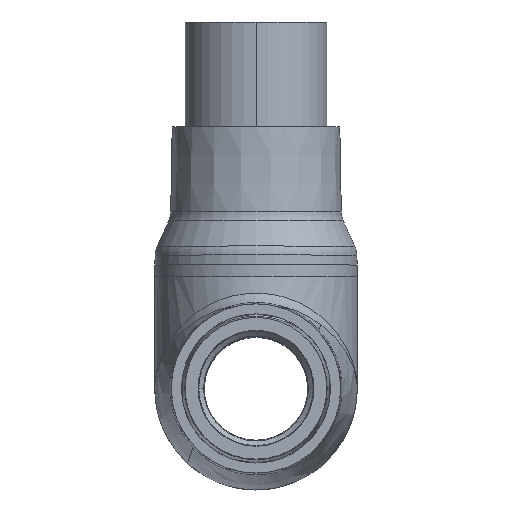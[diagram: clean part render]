
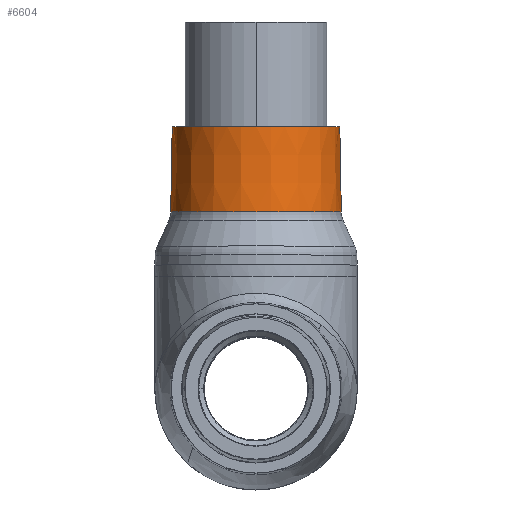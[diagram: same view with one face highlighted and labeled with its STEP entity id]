
A CAD part, top view. The second image highlights one B-rep face of the part: STEP entity #6604.
In plain terms, the highlighted conical face has half-angle 1 degrees and reference radius 37.25 mm.
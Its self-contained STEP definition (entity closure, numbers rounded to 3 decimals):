
#2695 = CARTESIAN_POINT ( 'NONE',  ( -0.314, 68.449, 7.056 ) ) ;
#2696 = DIRECTION ( 'NONE',  ( 0., 1., 0. ) ) ;
#2697 = DIRECTION ( 'NONE',  ( 1., 0., 0. ) ) ;
#4504 = DIRECTION ( 'NONE',  ( 1., 0., 0. ) ) ;
#4509 = FACE_OUTER_BOUND ( 'NONE', #7420, .T. ) ;
#4511 = DIRECTION ( 'NONE',  ( 0., -1., 0. ) ) ;
#4515 = CARTESIAN_POINT ( 'NONE',  ( -0.314, 106.357, 7.056 ) ) ;
#6604 = ADVANCED_FACE ( 'NONE', ( #4509 ), #8355, .T. ) ;
#6712 = CIRCLE ( 'NONE', #6722, 37.25 ) ;
#6720 = VECTOR ( 'NONE', #9482, 1000. ) ;
#6722 = AXIS2_PLACEMENT_3D ( 'NONE', #9479, #9480, #9481 ) ;
#6723 = VECTOR ( 'NONE', #9486, 1000. ) ;
#6868 = CIRCLE ( 'NONE', #6873, 37.912 ) ;
#6873 = AXIS2_PLACEMENT_3D ( 'NONE', #2695, #2696, #2697 ) ;
#7224 = EDGE_CURVE ( 'NONE', #7879, #7871, #6868, .T. ) ;
#7251 = EDGE_CURVE ( 'NONE', #7884, #7855, #6712, .T. ) ;
#7252 = EDGE_CURVE ( 'NONE', #7884, #7879, #9478, .T. ) ;
#7253 = EDGE_CURVE ( 'NONE', #7855, #7871, #9483, .T. ) ;
#7420 = EDGE_LOOP ( 'NONE', ( #7518, #7519, #7520, #7521 ) ) ;
#7518 = ORIENTED_EDGE ( 'NONE', *, *, #7251, .F. ) ;
#7519 = ORIENTED_EDGE ( 'NONE', *, *, #7252, .T. ) ;
#7520 = ORIENTED_EDGE ( 'NONE', *, *, #7224, .T. ) ;
#7521 = ORIENTED_EDGE ( 'NONE', *, *, #7253, .F. ) ;
#7855 = VERTEX_POINT ( 'NONE', #9595 ) ;
#7871 = VERTEX_POINT ( 'NONE', #9611 ) ;
#7879 = VERTEX_POINT ( 'NONE', #9619 ) ;
#7884 = VERTEX_POINT ( 'NONE', #9624 ) ;
#8355 = CONICAL_SURFACE ( 'NONE', #8356, 37.25, 0.017 ) ;
#8356 = AXIS2_PLACEMENT_3D ( 'NONE', #4515, #4511, #4504 ) ;
#9474 = CARTESIAN_POINT ( 'NONE',  ( -37.564, 106.357, 7.056 ) ) ;
#9478 = LINE ( 'NONE', #9474, #6720 ) ;
#9479 = CARTESIAN_POINT ( 'NONE',  ( -0.314, 106.357, 7.056 ) ) ;
#9480 = DIRECTION ( 'NONE',  ( 0., 1., 0. ) ) ;
#9481 = DIRECTION ( 'NONE',  ( 1., 0., 0. ) ) ;
#9482 = DIRECTION ( 'NONE',  ( -0.017, -1., 0. ) ) ;
#9483 = LINE ( 'NONE', #9485, #6723 ) ;
#9485 = CARTESIAN_POINT ( 'NONE',  ( 36.936, 106.357, 7.056 ) ) ;
#9486 = DIRECTION ( 'NONE',  ( 0.017, -1., 0. ) ) ;
#9595 = CARTESIAN_POINT ( 'NONE',  ( 36.936, 106.357, 7.056 ) ) ;
#9611 = CARTESIAN_POINT ( 'NONE',  ( 37.598, 68.449, 7.056 ) ) ;
#9619 = CARTESIAN_POINT ( 'NONE',  ( -38.225, 68.449, 7.056 ) ) ;
#9624 = CARTESIAN_POINT ( 'NONE',  ( -37.564, 106.357, 7.056 ) ) ;
